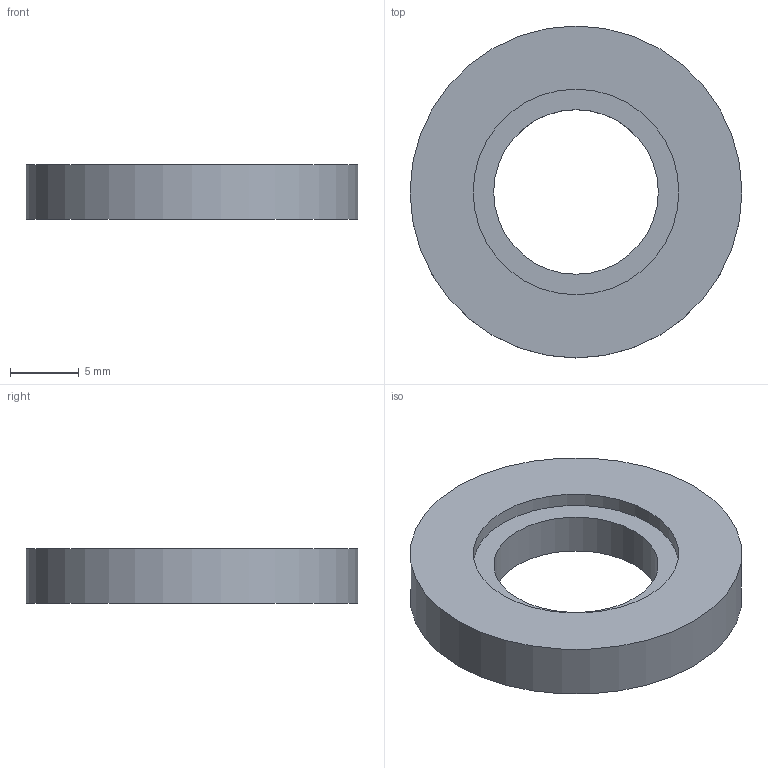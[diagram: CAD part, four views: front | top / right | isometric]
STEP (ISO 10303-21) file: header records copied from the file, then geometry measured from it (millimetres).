
FILE_DESCRIPTION(('Open CASCADE Model'),'2;1');
FILE_NAME('Open CASCADE Shape Model','2026-10-02T15:58:28',('Author'),( 'Open CASCADE'),'Open CASCADE STEP processor 8.0','build123d', 'Unknown');
FILE_SCHEMA(('AUTOMOTIVE_DESIGN { 1 0 10303 214 1 1 1 1 }'));
Length unit declared in the file: millimetre
Products named in the file (1): COMPOUND
Bounding box: 24.2 x 24.2 x 4 mm (x, y, z)
Volume: 1323.8 mm3; surface area: 1158.1 mm2
Topology: 1 solids, 1 shells, 6 faces, 9 edges, 6 vertices
Faces by surface type: cylinder 3, plane 3
Full cylindrical faces by diameter (mm): 12 x1, 15 x1, 24.2 x1
Entity records: 270 total; most frequent: DIRECTION 47, CARTESIAN_POINT 40, ORIENTED_EDGE 18, PCURVE 18, DEFINITIONAL_REPRESENTATION 18, LINE 15, VECTOR 15, AXIS2_PLACEMENT_3D 13
